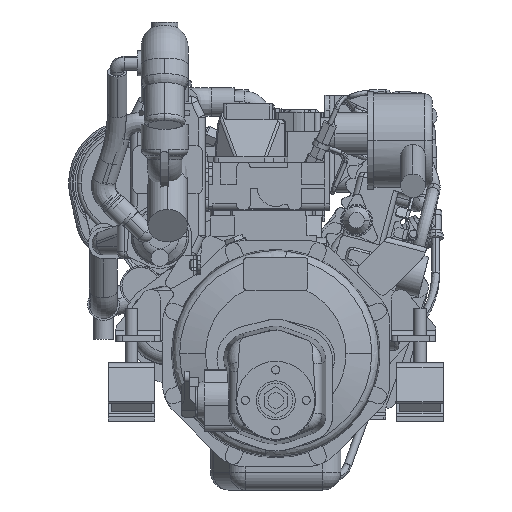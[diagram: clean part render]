
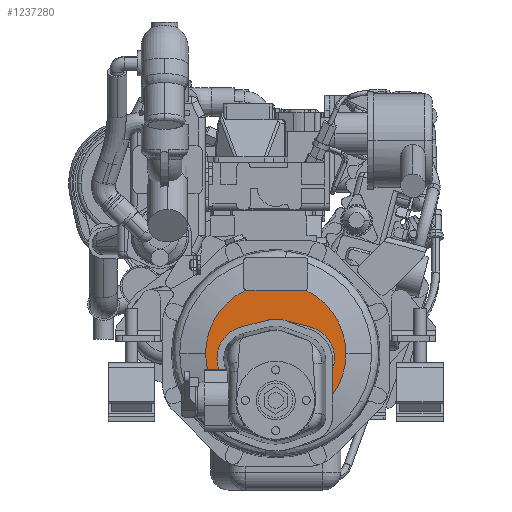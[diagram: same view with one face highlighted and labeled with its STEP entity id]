
A CAD part, front view. The second image highlights one B-rep face of the part: STEP entity #1237280.
In plain terms, the highlighted planar face has unit normal (0, -1, 0) as drawn and (0, 0, 1) by its records, which use the part's own axes.
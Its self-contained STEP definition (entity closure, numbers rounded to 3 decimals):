
#1233770=CARTESIAN_POINT('',(-38.565,81.319,178.));
#1233780=VERTEX_POINT('',#1233770);
#1233830=CARTESIAN_POINT('',(0.,0.,
178.));
#1233840=DIRECTION('',(0.,0.,1.));
#1233850=DIRECTION('',(-1.,0.,0.));
#1233860=AXIS2_PLACEMENT_3D('',#1233830,#1233840,#1233850);
#1233870=CIRCLE('',#1233860,90.);
#1233880=CARTESIAN_POINT('',(-90.,0.,178.
));
#1233890=VERTEX_POINT('',#1233880);
#1233900=EDGE_CURVE('',#1233780,#1233890,#1233870,.T.);
#1235720=CARTESIAN_POINT('',(90.,0.,178.)
);
#1235730=VERTEX_POINT('',#1235720);
#1235760=CARTESIAN_POINT('',(0.,0.,
178.));
#1235770=DIRECTION('',(0.,0.,1.));
#1235780=DIRECTION('',(-1.,0.,0.));
#1235790=AXIS2_PLACEMENT_3D('',#1235760,#1235770,#1235780);
#1235800=CIRCLE('',#1235790,90.);
#1235810=CARTESIAN_POINT('',(38.565,81.319,178.));
#1235820=VERTEX_POINT('',#1235810);
#1235830=EDGE_CURVE('',#1235730,#1235820,#1235800,.T.);
#1236260=CARTESIAN_POINT('',(-90.574,81.819,178.));
#1236270=DIRECTION('',(0.,0.,1.));
#1236280=DIRECTION('',(1.,0.,0.));
#1236290=AXIS2_PLACEMENT_3D('',#1236260,#1236270,#1236280);
#1236300=PLANE('',#1236290);
#1236310=ORIENTED_EDGE('',*,*,#1235830,.T.);
#1236320=CARTESIAN_POINT('',(73.,-52.64,178.));
#1236330=VERTEX_POINT('',#1236320);
#1236340=EDGE_CURVE('',#1236330,#1235730,#1235800,.T.);
#1236350=ORIENTED_EDGE('',*,*,#1236340,.T.);
#1236360=CARTESIAN_POINT('',(73.,0.,178.));
#1236370=DIRECTION('',(0.,-1.,0.));
#1236380=VECTOR('',#1236370,1.);
#1236390=LINE('',#1236360,#1236380);
#1236400=CARTESIAN_POINT('',(73.,-20.348,178.));
#1236410=VERTEX_POINT('',#1236400);
#1236420=EDGE_CURVE('',#1236410,#1236330,#1236390,.T.);
#1236430=ORIENTED_EDGE('',*,*,#1236420,.T.);
#1236440=CARTESIAN_POINT('',(33.402,-6.348,178.));
#1236450=DIRECTION('',(0.,0.,-1.));
#1236460=DIRECTION('',(-1.,0.,0.));
#1236470=AXIS2_PLACEMENT_3D('',#1236440,#1236450,#1236460);
#1236480=CIRCLE('',#1236470,42.);
#1236490=CARTESIAN_POINT('',(75.402,-6.348,178.));
#1236500=VERTEX_POINT('',#1236490);
#1236510=EDGE_CURVE('',#1236500,#1236410,#1236480,.T.);
#1236520=ORIENTED_EDGE('',*,*,#1236510,.T.);
#1236530=CARTESIAN_POINT('',(43.657,34.381,178.));
#1236540=VERTEX_POINT('',#1236530);
#1236550=EDGE_CURVE('',#1236540,#1236500,#1236480,.T.);
#1236560=ORIENTED_EDGE('',*,*,#1236550,.T.);
#1236570=CARTESIAN_POINT('',(0.,45.373,178.));
#1236580=DIRECTION('',(-0.97,0.244,0.));
#1236590=VECTOR('',#1236580,1.);
#1236600=LINE('',#1236570,#1236590);
#1236610=CARTESIAN_POINT('',(10.744,42.668,178.));
#1236620=VERTEX_POINT('',#1236610);
#1236630=EDGE_CURVE('',#1236540,#1236620,#1236600,.T.);
#1236640=ORIENTED_EDGE('',*,*,#1236630,.F.);
#1236650=CARTESIAN_POINT('',(0.,0.
,178.));
#1236660=DIRECTION('',(0.,0.,-1.));
#1236670=DIRECTION('',(-1.,0.,0.));
#1236680=AXIS2_PLACEMENT_3D('',#1236650,#1236660,#1236670);
#1236690=CIRCLE('',#1236680,44.);
#1236700=CARTESIAN_POINT('',(-15.049,41.346,178.));
#1236710=VERTEX_POINT('',#1236700);
#1236720=EDGE_CURVE('',#1236710,#1236620,#1236690,.T.);
#1236730=ORIENTED_EDGE('',*,*,#1236720,.T.);
#1236740=CARTESIAN_POINT('',(0.,46.824,178.));
#1236750=DIRECTION('',(-0.94,-0.342,0.));
#1236760=VECTOR('',#1236750,1.);
#1236770=LINE('',#1236740,#1236760);
#1236780=CARTESIAN_POINT('',(-45.365,30.312,178.));
#1236790=VERTEX_POINT('',#1236780);
#1236800=EDGE_CURVE('',#1236710,#1236790,#1236770,.T.);
#1236810=ORIENTED_EDGE('',*,*,#1236800,.F.);
#1236820=CARTESIAN_POINT('',(-31.,-9.155,178.));
#1236830=DIRECTION('',(0.,0.,-1.));
#1236840=DIRECTION('',(-1.,0.,0.));
#1236850=AXIS2_PLACEMENT_3D('',#1236820,#1236830,#1236840);
#1236860=CIRCLE('',#1236850,42.);
#1236870=CARTESIAN_POINT('',(-73.,-9.155,178.));
#1236880=VERTEX_POINT('',#1236870);
#1236890=EDGE_CURVE('',#1236880,#1236790,#1236860,.T.);
#1236900=ORIENTED_EDGE('',*,*,#1236890,.T.);
#1236910=CARTESIAN_POINT('',(-73.,0.,178.));
#1236920=DIRECTION('',(0.,1.,0.));
#1236930=VECTOR('',#1236920,1.);
#1236940=LINE('',#1236910,#1236930);
#1236950=CARTESIAN_POINT('',(-73.,-52.64,178.));
#1236960=VERTEX_POINT('',#1236950);
#1236970=EDGE_CURVE('',#1236960,#1236880,#1236940,.T.);
#1236980=ORIENTED_EDGE('',*,*,#1236970,.T.);
#1236990=EDGE_CURVE('',#1233890,#1236960,#1233870,.T.);
#1237000=ORIENTED_EDGE('',*,*,#1236990,.T.);
#1237010=ORIENTED_EDGE('',*,*,#1233900,.T.);
#1237020=CARTESIAN_POINT('',(-37.,85.,178.));
#1237030=DIRECTION('',(0.,0.,-1.));
#1237040=DIRECTION('',(-1.,0.,0.));
#1237050=AXIS2_PLACEMENT_3D('',#1237020,#1237030,#1237040);
#1237060=CIRCLE('',#1237050,4.);
#1237070=CARTESIAN_POINT('',(-37.,81.,178.));
#1237080=VERTEX_POINT('',#1237070);
#1237090=EDGE_CURVE('',#1237080,#1233780,#1237060,.T.);
#1237100=ORIENTED_EDGE('',*,*,#1237090,.T.);
#1237110=CARTESIAN_POINT('',(0.,81.,178.));
#1237120=DIRECTION('',(1.,0.,0.));
#1237130=VECTOR('',#1237120,1.);
#1237140=LINE('',#1237110,#1237130);
#1237150=CARTESIAN_POINT('',(37.,81.,178.));
#1237160=VERTEX_POINT('',#1237150);
#1237170=EDGE_CURVE('',#1237080,#1237160,#1237140,.T.);
#1237180=ORIENTED_EDGE('',*,*,#1237170,.F.);
#1237190=CARTESIAN_POINT('',(37.,85.,178.));
#1237200=DIRECTION('',(0.,0.,-1.));
#1237210=DIRECTION('',(-1.,0.,0.));
#1237220=AXIS2_PLACEMENT_3D('',#1237190,#1237200,#1237210);
#1237230=CIRCLE('',#1237220,4.);
#1237240=EDGE_CURVE('',#1235820,#1237160,#1237230,.T.);
#1237250=ORIENTED_EDGE('',*,*,#1237240,.T.);
#1237260=EDGE_LOOP('',(#1237250,#1237180,#1237100,#1237010,#1237000,
#1236980,#1236900,#1236810,#1236730,#1236640,#1236560,#1236520,#1236430,
#1236350,#1236310));
#1237270=FACE_OUTER_BOUND('',#1237260,.T.);
#1237280=ADVANCED_FACE('',(#1237270),#1236300,.T.);
